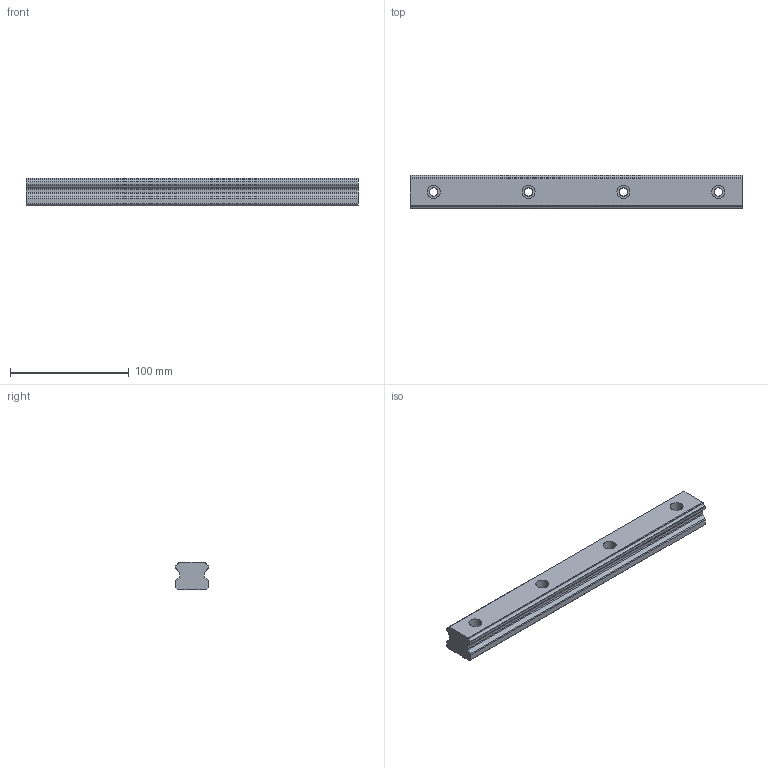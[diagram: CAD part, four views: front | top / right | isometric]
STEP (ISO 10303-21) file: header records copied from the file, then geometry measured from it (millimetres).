
FILE_DESCRIPTION(('starvars output'),'2;1');
FILE_NAME('cv20190626225720000043890.stp','22:57:20 2019/06/26',( 'Thomas Industrial Network Germany GmbH'),( 'Thomas Industrial Network Germany GmbH'),'unknown preprocess','ACIS' ,'unknown authorization');
FILE_SCHEMA(('CONFIG_CONTROL_DESIGN {UNKNOWN IMPLEMENTATION LEVEL}'));
Length unit declared in the file: millimetre
Products named in the file (1): PRODUCT_ID_1
Bounding box: 280 x 28 x 23 mm (x, y, z)
Volume: 155535.9 mm3; surface area: 32274.1 mm2
Topology: 1 solids, 1 shells, 60 faces, 162 edges, 108 vertices
Faces by surface type: cylinder 34, plane 26
Entity records: 1895 total; most frequent: ORIENTED_EDGE 324, CARTESIAN_POINT 306, DIRECTION 302, EDGE_CURVE 162, VERTEX_POINT 108, AXIS2_PLACEMENT_3D 104, VECTOR 94, LINE 94
